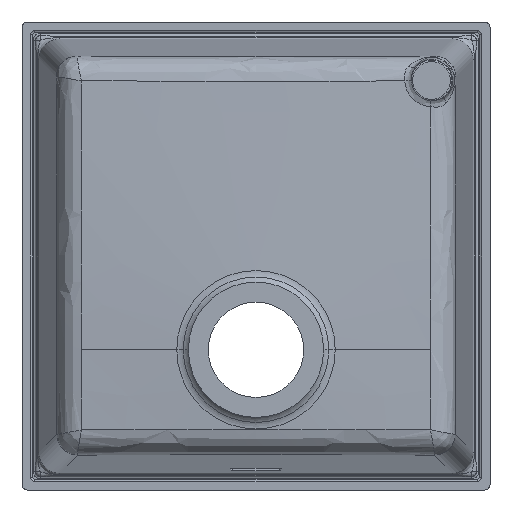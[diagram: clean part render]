
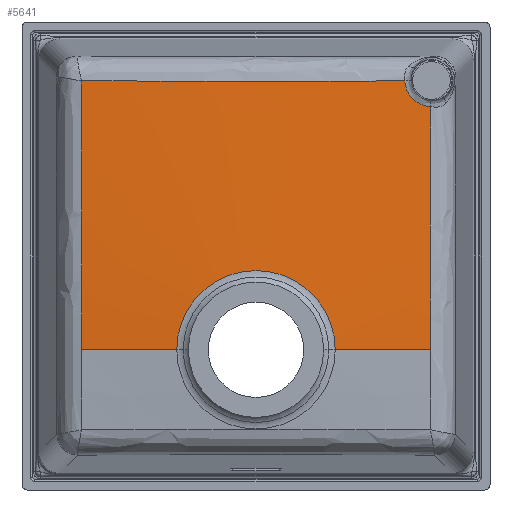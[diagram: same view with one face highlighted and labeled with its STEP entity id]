
A CAD part, front view. The second image highlights one B-rep face of the part: STEP entity #5641.
In plain terms, the highlighted conical face has half-angle 87 degrees and reference radius 192.257 mm.
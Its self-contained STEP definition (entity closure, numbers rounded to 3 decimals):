
#1063=CARTESIAN_POINT('',(0.,-207.06,0.));
#1064=DIRECTION('',(0.,-1.,0.));
#1065=DIRECTION('',(1.,0.,0.));
#1066=AXIS2_PLACEMENT_3D('',#1063,#1064,#1065);
#1068=CARTESIAN_POINT('',(167.791,-202.26,
0.));
#1069=CARTESIAN_POINT('',(167.791,-202.26,1.199));
#1070=CARTESIAN_POINT('',(167.792,-202.251,17.016));
#1071=CARTESIAN_POINT('',(167.779,-202.006,47.448));
#1072=CARTESIAN_POINT('',(167.756,-201.113,91.223));
#1073=CARTESIAN_POINT('',(167.758,-199.818,134.912));
#1074=CARTESIAN_POINT('',(167.802,-198.104,182.403));
#1075=CARTESIAN_POINT('',(167.864,-196.757,215.315));
#1076=CARTESIAN_POINT('',(167.907,-195.973,233.698));
#1078=CARTESIAN_POINT('',(-167.97,-194.895,
258.554));
#1079=CARTESIAN_POINT('',(-167.898,-196.069,
231.895));
#1080=CARTESIAN_POINT('',(-167.81,-197.804,
190.71));
#1081=CARTESIAN_POINT('',(-167.758,-199.818,
134.92));
#1082=CARTESIAN_POINT('',(-167.756,-201.113,
91.228));
#1083=CARTESIAN_POINT('',(-167.779,-202.006,
47.455));
#1084=CARTESIAN_POINT('',(-167.791,-202.251,
17.024));
#1085=CARTESIAN_POINT('',(-167.791,-202.26,
1.205));
#1086=CARTESIAN_POINT('',(-167.791,-202.26,
0.));
#1088=CARTESIAN_POINT('',(143.126,-195.567,258.531));
#1089=CARTESIAN_POINT('',(124.624,-196.037,258.517));
#1090=CARTESIAN_POINT('',(91.531,-196.753,258.5));
#1091=CARTESIAN_POINT('',(43.812,-197.376,258.492));
#1092=CARTESIAN_POINT('',(0.,-197.572,
258.491));
#1093=CARTESIAN_POINT('',(-43.812,-197.376,
258.492));
#1094=CARTESIAN_POINT('',(-99.827,-196.645,
258.501));
#1095=CARTESIAN_POINT('',(-141.198,-195.66,
258.526));
#1096=CARTESIAN_POINT('',(-167.97,-194.895,
258.554));
#1098=CARTESIAN_POINT('',(167.907,-195.973,233.698));
#1099=CARTESIAN_POINT('',(166.302,-196.017,233.796));
#1100=CARTESIAN_POINT('',(163.94,-196.073,234.161));
#1101=CARTESIAN_POINT('',(160.881,-196.125,235.065));
#1102=CARTESIAN_POINT('',(157.878,-196.162,236.26));
#1103=CARTESIAN_POINT('',(155.113,-196.173,237.824));
#1104=CARTESIAN_POINT('',(152.561,-196.16,239.758));
#1105=CARTESIAN_POINT('',(150.772,-196.138,241.39));
#1106=CARTESIAN_POINT('',(149.152,-196.104,243.164));
#1107=CARTESIAN_POINT('',(147.198,-196.041,245.738));
#1108=CARTESIAN_POINT('',(145.64,-195.958,248.511));
#1109=CARTESIAN_POINT('',(144.611,-195.867,251.111));
#1110=CARTESIAN_POINT('',(144.122,-195.81,252.65));
#1111=CARTESIAN_POINT('',(143.503,-195.72,254.971));
#1112=CARTESIAN_POINT('',(143.213,-195.637,256.938));
#1113=CARTESIAN_POINT('',(143.126,-195.567,258.531));
#1246=CARTESIAN_POINT('',(-167.97,-194.895,
258.554));
#1559=DIRECTION('',(-0.999,0.052,0.));
#1560=VECTOR('',#1559,91.728);
#1561=CARTESIAN_POINT('',(-76.19,-207.06,0.));
#1562=LINE('',#1561,#1560);
#1563=DIRECTION('',(0.999,0.052,0.));
#1564=VECTOR('',#1563,91.728);
#1565=CARTESIAN_POINT('',(76.19,-207.06,0.));
#1566=LINE('',#1565,#1564);
#3461=CARTESIAN_POINT('',(167.907,-195.973,233.698));
#3491=CARTESIAN_POINT('',(143.126,-195.567,258.531));
#3843=VERTEX_POINT('',#3491);
#3858=VERTEX_POINT('',#1246);
#3868=VERTEX_POINT('',#3461);
#3917=CARTESIAN_POINT('',(76.19,-207.06,0.));
#3919=VERTEX_POINT('',#3917);
#3923=CARTESIAN_POINT('',(-76.19,-207.06,
0.));
#3924=VERTEX_POINT('',#3923);
#3943=CARTESIAN_POINT('',(167.791,-202.26,
0.));
#3944=VERTEX_POINT('',#3943);
#3945=CARTESIAN_POINT('',(-167.791,-202.26,
0.));
#3946=VERTEX_POINT('',#3945);
#5621=CARTESIAN_POINT('',(0.,-200.978,0.));
#5622=DIRECTION('',(0.,1.,0.));
#5623=DIRECTION('',(-1.,0.,0.));
#5624=AXIS2_PLACEMENT_3D('',#5621,#5622,#5623);
#5625=CONICAL_SURFACE('',#5624,192.257,87.);
#5627=ORIENTED_EDGE('',*,*,#5626,.F.);
#5629=ORIENTED_EDGE('',*,*,#5628,.F.);
#5630=ORIENTED_EDGE('',*,*,#5611,.T.);
#5632=ORIENTED_EDGE('',*,*,#5631,.T.);
#5634=ORIENTED_EDGE('',*,*,#5633,.F.);
#5636=ORIENTED_EDGE('',*,*,#5635,.F.);
#5638=ORIENTED_EDGE('',*,*,#5637,.F.);
#5639=EDGE_LOOP('',(#5627,#5629,#5630,#5632,#5634,#5636,#5638));
#5640=FACE_OUTER_BOUND('',#5639,.F.);
#1067=CIRCLE('',#1066,76.19);
#1077=B_SPLINE_CURVE_WITH_KNOTS('',3,(#1068,#1069,#1070,#1071,#1072,#1073,#1074,
#1075,#1076),.UNSPECIFIED.,.F.,.F.,(4,1,1,1,1,1,4),(0.,0.015,
0.202,0.389,0.576,0.763,1.),
.UNSPECIFIED.);
#1087=B_SPLINE_CURVE_WITH_KNOTS('',3,(#1078,#1079,#1080,#1081,#1082,#1083,#1084,
#1085,#1086),.UNSPECIFIED.,.F.,.F.,(4,1,1,1,1,1,4),(0.,0.31,
0.479,0.648,0.817,0.986,1.),
.UNSPECIFIED.);
#1097=B_SPLINE_CURVE_WITH_KNOTS('',3,(#1088,#1089,#1090,#1091,#1092,#1093,#1094,
#1095,#1096),.UNSPECIFIED.,.F.,.F.,(4,1,1,1,1,1,4),(0.,0.179,
0.319,0.46,0.601,0.741,1.),
.UNSPECIFIED.);
#1114=B_SPLINE_CURVE_WITH_KNOTS('',3,(#1098,#1099,#1100,#1101,#1102,#1103,#1104,
#1105,#1106,#1107,#1108,#1109,#1110,#1111,#1112,#1113),.UNSPECIFIED.,.F.,.F.,(4,
1,1,1,1,1,1,1,1,1,1,1,1,4),(0.,0.125,0.188,0.25,0.375,0.438,0.5,
0.563,0.625,0.75,0.813,0.844,0.875,1.),.UNSPECIFIED.);
#5611=EDGE_CURVE('',#3919,#3924,#1067,.T.);
#5626=EDGE_CURVE('',#3944,#3868,#1077,.T.);
#5628=EDGE_CURVE('',#3919,#3944,#1566,.T.);
#5631=EDGE_CURVE('',#3924,#3946,#1562,.T.);
#5633=EDGE_CURVE('',#3858,#3946,#1087,.T.);
#5635=EDGE_CURVE('',#3843,#3858,#1097,.T.);
#5637=EDGE_CURVE('',#3868,#3843,#1114,.T.);
#5641=ADVANCED_FACE('',(#5640),#5625,.T.);
